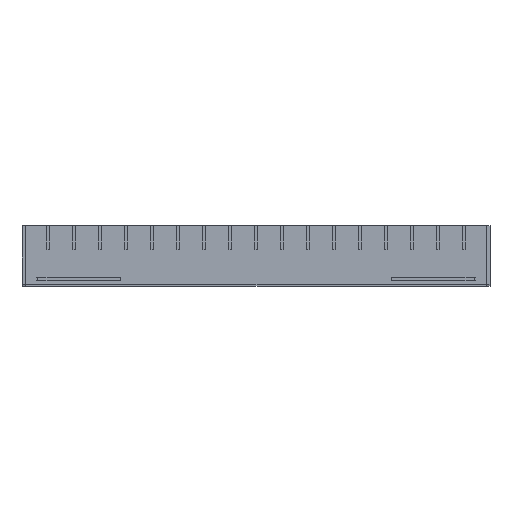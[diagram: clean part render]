
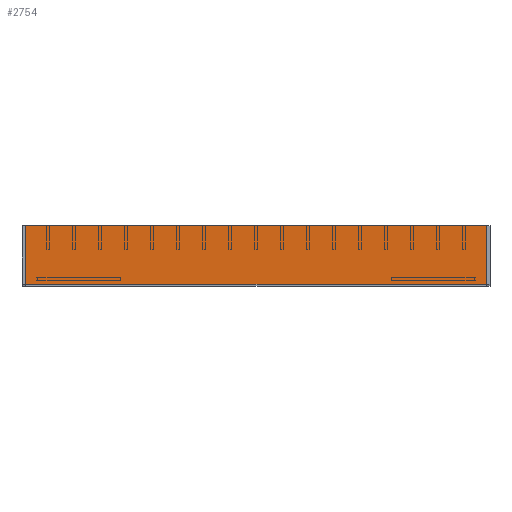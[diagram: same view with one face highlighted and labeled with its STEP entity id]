
A CAD part, top view. The second image highlights one B-rep face of the part: STEP entity #2754.
In plain terms, the highlighted planar face has unit normal (0, 0, 1).
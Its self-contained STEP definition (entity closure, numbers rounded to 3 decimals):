
#170 = CARTESIAN_POINT ( 'NONE',  ( -63.234, 45.593, 3. ) ) ;
#501 = VERTEX_POINT ( 'NONE', #2407 ) ;
#617 = VECTOR ( 'NONE', #4573, 1000. ) ;
#880 = DIRECTION ( 'NONE',  ( 0., -1., 0. ) ) ;
#1059 = VERTEX_POINT ( 'NONE', #3173 ) ;
#1295 = LINE ( 'NONE', #170, #6980 ) ;
#1360 = EDGE_CURVE ( 'NONE', #1059, #9174, #5061, .T. ) ;
#1516 = CARTESIAN_POINT ( 'NONE',  ( -63.234, -4.407, 3. ) ) ;
#1744 = PLANE ( 'NONE',  #6260 ) ;
#1835 = ORIENTED_EDGE ( 'NONE', *, *, #3829, .T. ) ;
#2226 = DIRECTION ( 'NONE',  ( 1., 0., 0. ) ) ;
#2407 = CARTESIAN_POINT ( 'NONE',  ( -63.234, -4.407, 3. ) ) ;
#2754 = ADVANCED_FACE ( 'NONE', ( #4972 ), #1744, .T. ) ;
#2875 = ORIENTED_EDGE ( 'NONE', *, *, #4843, .T. ) ;
#3167 = DIRECTION ( 'NONE',  ( 0., 0., 1. ) ) ;
#3173 = CARTESIAN_POINT ( 'NONE',  ( 330.766, 45.593, 3. ) ) ;
#3716 = CARTESIAN_POINT ( 'NONE',  ( -63.234, 45.593, 3. ) ) ;
#3794 = EDGE_LOOP ( 'NONE', ( #6701, #1835, #2875, #8353 ) ) ;
#3829 = EDGE_CURVE ( 'NONE', #501, #8226, #8785, .T. ) ;
#4548 = CARTESIAN_POINT ( 'NONE',  ( 330.766, 45.593, 3. ) ) ;
#4573 = DIRECTION ( 'NONE',  ( 0., 1., 0. ) ) ;
#4706 = CARTESIAN_POINT ( 'NONE',  ( 330.766, -4.407, 3. ) ) ;
#4736 = VECTOR ( 'NONE', #2226, 1000. ) ;
#4843 = EDGE_CURVE ( 'NONE', #8226, #1059, #8190, .T. ) ;
#4972 = FACE_OUTER_BOUND ( 'NONE', #3794, .T. ) ;
#5061 = LINE ( 'NONE', #6395, #8668 ) ;
#6260 = AXIS2_PLACEMENT_3D ( 'NONE', #7457, #3167, #8189 ) ;
#6395 = CARTESIAN_POINT ( 'NONE',  ( -63.234, 45.593, 3. ) ) ;
#6701 = ORIENTED_EDGE ( 'NONE', *, *, #7231, .T. ) ;
#6980 = VECTOR ( 'NONE', #880, 1000. ) ;
#7231 = EDGE_CURVE ( 'NONE', #9174, #501, #1295, .T. ) ;
#7457 = CARTESIAN_POINT ( 'NONE',  ( -63.234, -4.407, 3. ) ) ;
#8189 = DIRECTION ( 'NONE',  ( 1., 0., 0. ) ) ;
#8190 = LINE ( 'NONE', #4548, #617 ) ;
#8226 = VERTEX_POINT ( 'NONE', #4706 ) ;
#8353 = ORIENTED_EDGE ( 'NONE', *, *, #1360, .T. ) ;
#8555 = DIRECTION ( 'NONE',  ( -1., 0., 0. ) ) ;
#8668 = VECTOR ( 'NONE', #8555, 1000. ) ;
#8785 = LINE ( 'NONE', #1516, #4736 ) ;
#9174 = VERTEX_POINT ( 'NONE', #3716 ) ;
